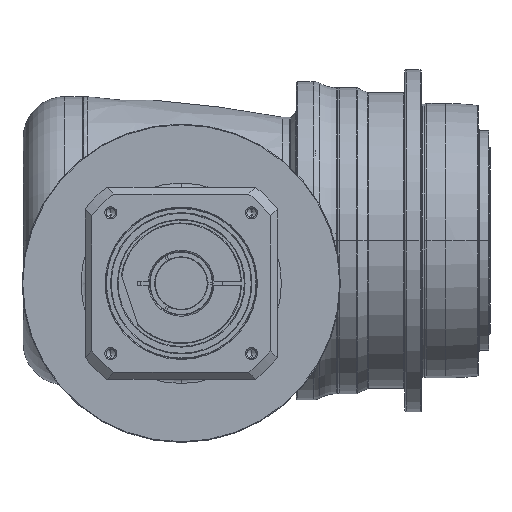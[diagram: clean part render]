
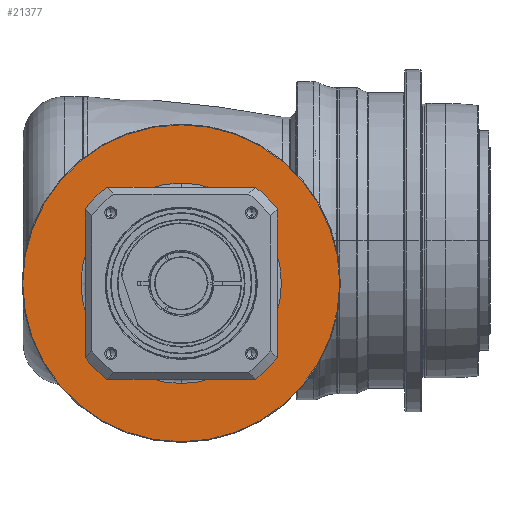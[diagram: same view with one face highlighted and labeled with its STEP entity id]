
A CAD part, front view. The second image highlights one B-rep face of the part: STEP entity #21377.
In plain terms, the highlighted planar face has unit normal (0, -1, 0) as drawn and (1, 0, 0) by its records, which use the part's own axes.
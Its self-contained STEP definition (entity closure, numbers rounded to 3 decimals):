
#20008=CARTESIAN_POINT('',(-7.5,0.,0.));
#20009=DIRECTION('',(-1.,0.,0.));
#20010=DIRECTION('',(0.,-1.,0.));
#20011=AXIS2_PLACEMENT_3D('',#20008,#20009,#20010);
#20013=CARTESIAN_POINT('',(-7.5,0.,0.));
#20014=DIRECTION('',(-1.,0.,0.));
#20015=DIRECTION('',(0.,1.,0.));
#20016=AXIS2_PLACEMENT_3D('',#20013,#20014,#20015);
#20018=CARTESIAN_POINT('',(-7.5,0.,0.));
#20019=DIRECTION('',(-1.,0.,0.));
#20020=DIRECTION('',(0.,-1.,0.));
#20021=AXIS2_PLACEMENT_3D('',#20018,#20019,#20020);
#20023=CARTESIAN_POINT('',(-7.5,0.,0.));
#20024=DIRECTION('',(-1.,0.,0.));
#20025=DIRECTION('',(0.,1.,0.));
#20026=AXIS2_PLACEMENT_3D('',#20023,#20024,#20025);
#20301=CARTESIAN_POINT('',(-7.5,-115.5,0.));
#20302=CARTESIAN_POINT('',(-7.5,115.5,0.));
#20303=VERTEX_POINT('',#20301);
#20304=VERTEX_POINT('',#20302);
#20317=CARTESIAN_POINT('',(-7.5,-73.,0.));
#20318=CARTESIAN_POINT('',(-7.5,73.,0.));
#20319=VERTEX_POINT('',#20317);
#20320=VERTEX_POINT('',#20318);
#21362=CARTESIAN_POINT('',(-7.5,0.,0.));
#21363=DIRECTION('',(1.,0.,0.));
#21364=DIRECTION('',(0.,-1.,0.));
#21365=AXIS2_PLACEMENT_3D('',#21362,#21363,#21364);
#21366=PLANE('',#21365);
#21367=ORIENTED_EDGE('',*,*,#21318,.T.);
#21368=ORIENTED_EDGE('',*,*,#21303,.T.);
#21369=EDGE_LOOP('',(#21367,#21368));
#21370=FACE_OUTER_BOUND('',#21369,.F.);
#21372=ORIENTED_EDGE('',*,*,#21371,.F.);
#21374=ORIENTED_EDGE('',*,*,#21373,.F.);
#21375=EDGE_LOOP('',(#21372,#21374));
#21376=FACE_BOUND('',#21375,.F.);
#21377=ADVANCED_FACE('',(#21370,#21376),#21366,.T.);
#20012=CIRCLE('',#20011,73.);
#20017=CIRCLE('',#20016,73.);
#20022=CIRCLE('',#20021,115.5);
#20027=CIRCLE('',#20026,115.5);
#21303=EDGE_CURVE('',#20304,#20303,#20027,.T.);
#21318=EDGE_CURVE('',#20303,#20304,#20022,.T.);
#21371=EDGE_CURVE('',#20319,#20320,#20012,.T.);
#21373=EDGE_CURVE('',#20320,#20319,#20017,.T.);
